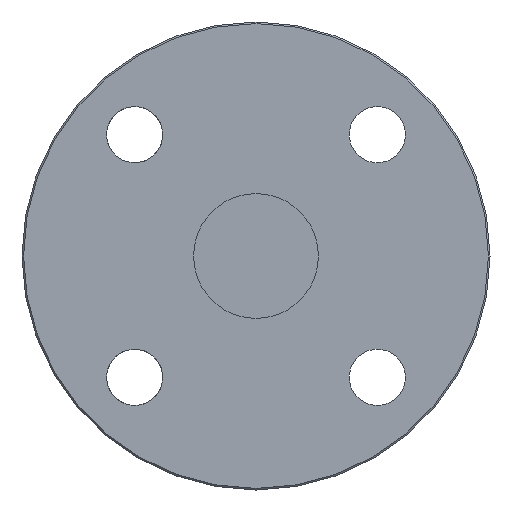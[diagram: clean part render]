
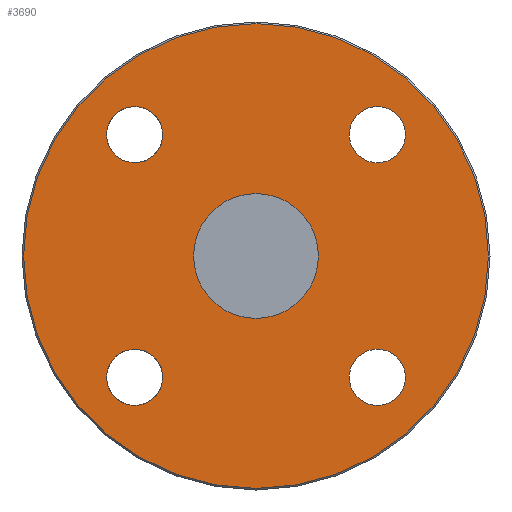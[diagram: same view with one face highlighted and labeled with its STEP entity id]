
A CAD part, left-side view. The second image highlights one B-rep face of the part: STEP entity #3690.
In plain terms, the highlighted planar face has unit normal (-1, 0, 0).
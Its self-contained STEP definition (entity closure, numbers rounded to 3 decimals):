
#136=FACE_BOUND('',#733,.T.);
#137=FACE_BOUND('',#734,.T.);
#138=FACE_BOUND('',#735,.T.);
#139=FACE_BOUND('',#736,.T.);
#140=FACE_BOUND('',#737,.T.);
#251=PLANE('',#3971);
#498=FACE_OUTER_BOUND('',#732,.T.);
#732=EDGE_LOOP('',(#3386));
#733=EDGE_LOOP('',(#3387));
#734=EDGE_LOOP('',(#3388,#3389));
#735=EDGE_LOOP('',(#3390,#3391));
#736=EDGE_LOOP('',(#3392,#3393));
#737=EDGE_LOOP('',(#3394,#3395));
#1527=CIRCLE('',#3970,74.5);
#1528=CIRCLE('',#3972,20.);
#1529=CIRCLE('',#3973,9.);
#1530=CIRCLE('',#3974,9.);
#1531=CIRCLE('',#3975,9.);
#1532=CIRCLE('',#3976,9.);
#1533=CIRCLE('',#3977,9.);
#1534=CIRCLE('',#3978,9.);
#1535=CIRCLE('',#3979,9.);
#1536=CIRCLE('',#3980,9.);
#1873=VERTEX_POINT('',#6596);
#1874=VERTEX_POINT('',#6600);
#1875=VERTEX_POINT('',#6602);
#1876=VERTEX_POINT('',#6603);
#1877=VERTEX_POINT('',#6606);
#1878=VERTEX_POINT('',#6607);
#1879=VERTEX_POINT('',#6610);
#1880=VERTEX_POINT('',#6611);
#1881=VERTEX_POINT('',#6614);
#1882=VERTEX_POINT('',#6615);
#2385=EDGE_CURVE('',#1873,#1873,#1527,.T.);
#2386=EDGE_CURVE('',#1874,#1874,#1528,.T.);
#2387=EDGE_CURVE('',#1875,#1876,#1529,.T.);
#2388=EDGE_CURVE('',#1876,#1875,#1530,.T.);
#2389=EDGE_CURVE('',#1877,#1878,#1531,.T.);
#2390=EDGE_CURVE('',#1878,#1877,#1532,.T.);
#2391=EDGE_CURVE('',#1879,#1880,#1533,.T.);
#2392=EDGE_CURVE('',#1880,#1879,#1534,.T.);
#2393=EDGE_CURVE('',#1881,#1882,#1535,.T.);
#2394=EDGE_CURVE('',#1882,#1881,#1536,.T.);
#3386=ORIENTED_EDGE('',*,*,#2385,.F.);
#3387=ORIENTED_EDGE('',*,*,#2386,.T.);
#3388=ORIENTED_EDGE('',*,*,#2387,.T.);
#3389=ORIENTED_EDGE('',*,*,#2388,.T.);
#3390=ORIENTED_EDGE('',*,*,#2389,.T.);
#3391=ORIENTED_EDGE('',*,*,#2390,.T.);
#3392=ORIENTED_EDGE('',*,*,#2391,.T.);
#3393=ORIENTED_EDGE('',*,*,#2392,.T.);
#3394=ORIENTED_EDGE('',*,*,#2393,.T.);
#3395=ORIENTED_EDGE('',*,*,#2394,.T.);
#3690=ADVANCED_FACE('',(#498,#136,#137,#138,#139,#140),#251,.T.);
#3970=AXIS2_PLACEMENT_3D('',#6598,#4825,#4826);
#3971=AXIS2_PLACEMENT_3D('',#6599,#4827,#4828);
#3972=AXIS2_PLACEMENT_3D('',#6601,#4829,#4830);
#3973=AXIS2_PLACEMENT_3D('',#6604,#4831,#4832);
#3974=AXIS2_PLACEMENT_3D('',#6605,#4833,#4834);
#3975=AXIS2_PLACEMENT_3D('',#6608,#4835,#4836);
#3976=AXIS2_PLACEMENT_3D('',#6609,#4837,#4838);
#3977=AXIS2_PLACEMENT_3D('',#6612,#4839,#4840);
#3978=AXIS2_PLACEMENT_3D('',#6613,#4841,#4842);
#3979=AXIS2_PLACEMENT_3D('',#6616,#4843,#4844);
#3980=AXIS2_PLACEMENT_3D('',#6617,#4845,#4846);
#4825=DIRECTION('center_axis',(1.,0.,0.));
#4826=DIRECTION('ref_axis',(0.,-1.,0.));
#4827=DIRECTION('center_axis',(-1.,0.,0.));
#4828=DIRECTION('ref_axis',(0.,0.,1.));
#4829=DIRECTION('center_axis',(1.,0.,0.));
#4830=DIRECTION('ref_axis',(0.,0.,-1.));
#4831=DIRECTION('center_axis',(1.,0.,0.));
#4832=DIRECTION('ref_axis',(0.,0.,1.));
#4833=DIRECTION('center_axis',(1.,0.,0.));
#4834=DIRECTION('ref_axis',(0.,0.,1.));
#4835=DIRECTION('center_axis',(1.,0.,0.));
#4836=DIRECTION('ref_axis',(0.,0.,1.));
#4837=DIRECTION('center_axis',(1.,0.,0.));
#4838=DIRECTION('ref_axis',(0.,0.,1.));
#4839=DIRECTION('center_axis',(1.,0.,0.));
#4840=DIRECTION('ref_axis',(0.,0.,1.));
#4841=DIRECTION('center_axis',(1.,0.,0.));
#4842=DIRECTION('ref_axis',(0.,0.,1.));
#4843=DIRECTION('center_axis',(1.,0.,0.));
#4844=DIRECTION('ref_axis',(0.,0.,1.));
#4845=DIRECTION('center_axis',(1.,0.,0.));
#4846=DIRECTION('ref_axis',(0.,0.,1.));
#6596=CARTESIAN_POINT('',(-40.,74.5,0.));
#6598=CARTESIAN_POINT('Origin',(-40.,0.,0.));
#6599=CARTESIAN_POINT('Origin',(-40.,37.5,0.));
#6600=CARTESIAN_POINT('',(-40.,0.,20.));
#6601=CARTESIAN_POINT('Origin',(-40.,0.,0.));
#6602=CARTESIAN_POINT('',(-40.,38.891,-29.891));
#6603=CARTESIAN_POINT('',(-40.,38.891,-47.891));
#6604=CARTESIAN_POINT('Origin',(-40.,38.891,-38.891));
#6605=CARTESIAN_POINT('Origin',(-40.,38.891,-38.891));
#6606=CARTESIAN_POINT('',(-40.,-38.891,-29.891));
#6607=CARTESIAN_POINT('',(-40.,-38.891,-47.891));
#6608=CARTESIAN_POINT('Origin',(-40.,-38.891,-38.891));
#6609=CARTESIAN_POINT('Origin',(-40.,-38.891,-38.891));
#6610=CARTESIAN_POINT('',(-40.,-38.891,47.891));
#6611=CARTESIAN_POINT('',(-40.,-38.891,29.891));
#6612=CARTESIAN_POINT('Origin',(-40.,-38.891,38.891));
#6613=CARTESIAN_POINT('Origin',(-40.,-38.891,38.891));
#6614=CARTESIAN_POINT('',(-40.,38.891,47.891));
#6615=CARTESIAN_POINT('',(-40.,38.891,29.891));
#6616=CARTESIAN_POINT('Origin',(-40.,38.891,38.891));
#6617=CARTESIAN_POINT('Origin',(-40.,38.891,38.891));
